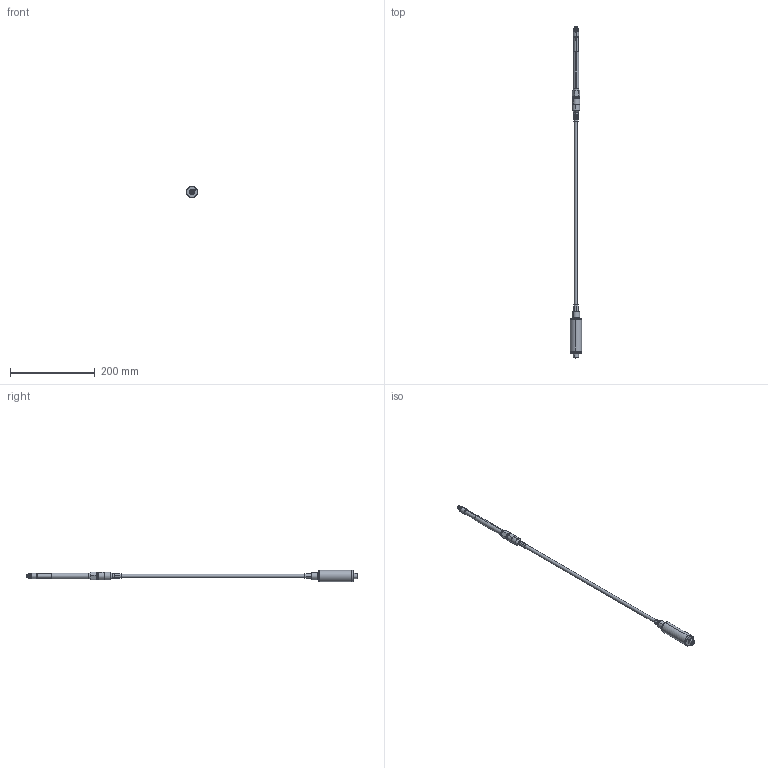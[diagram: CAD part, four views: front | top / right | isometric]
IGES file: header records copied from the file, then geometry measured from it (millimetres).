
Start section: SolidWorks IGES file using analytic representation for surfaces
Global section: file name: C:\Users\daniele.peli\Desktop\Simona\ILI1\ILI1-S-5-x-xxxx-1-4-D-P.IGS; native system: SolidWorks 2021; preprocessor: SolidWorks 2021; author: daniele.peli; date: 210204.140510; units: millimetre
Bounding box: 26.5 x 784.4 x 26.5 mm (x, y, z)
Surface area: 31082.9 mm2 (no closed solid volume)
Topology: 0 solids, 0 shells, 147 faces, 1692 edges, 1692 vertices
Faces by surface type: revolution 96, bspline 51
